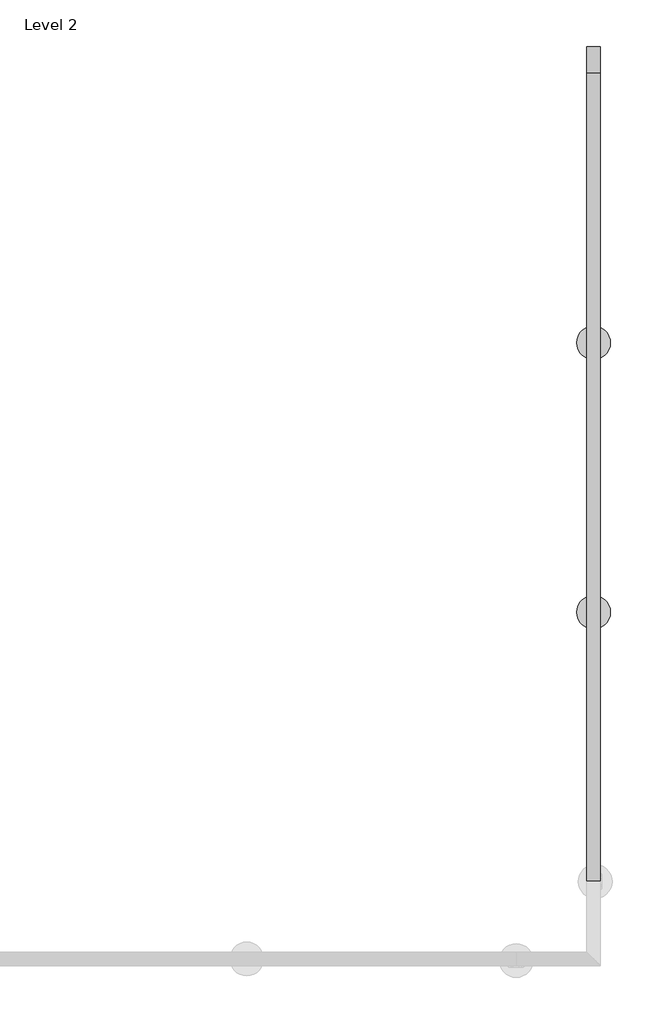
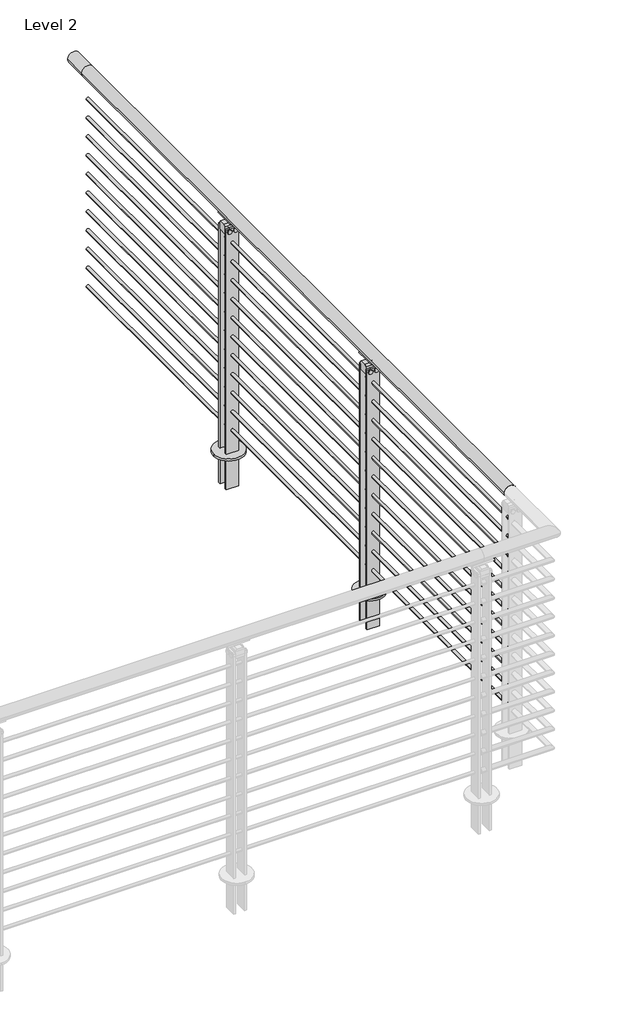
# One storey, part 19 of 31: 1 railing.
"""IFC4 building model written with IfcOpenShell, lengths in millimetres."""

from ifc_helpers import new_model, si_unit, point, frame, frame_2d, origin, place, context, project, spatial, polyline, circle_curve, trimmed, segment, composite_curve, outline, extrude, element, save
from ifc_brep_helpers import plane_surface, cylinder_surface, revolved_surface, advanced_brep

model = new_model("IFC4")

# Units and contexts
model_context = context("Model", 3, world=origin())
ifc_project = project(units=[si_unit("LENGTHUNIT", "METRE", prefix="MILLI")], contexts=[model_context])

# Site, building, storey
site = spatial("IfcSite", under=ifc_project)
building = spatial("IfcBuilding", under=site)
storey = spatial("IfcBuildingStorey", under=building, Name="Level 2", Elevation=3048.0)

# Railing
placement = place(None, origin())
element("IfcRailing", 1, ObjectType="VIVA-BLADE-Multiline-Core Mount-Straight", at=placement, inside=storey, context=model_context, shape_type="SolidModel", body=[
    advanced_brep(
    [(71109.5617686, -69643.4426165, 4102.1), (71058.7617686, -69643.4426165, 4102.1), (71109.5617686, -66595.4426165, 4102.1), (71058.7617686, -66595.4426165, 4102.1), (71109.5617686, -66493.8426165, 4102.1), (71058.7617686, -66493.8426165, 4102.1)],
    [
        (0, 1, circle_curve(frame((71084.1617686, -69643.4426165, 4102.1), z_axis=(0.0, -1.0, 0.0), x_axis=(-1.0, 0.0, 0.0)), 25.4)),
        (1, 0, circle_curve(frame((71084.1617686, -69643.4426165, 4102.1), z_axis=(0.0, -1.0, 0.0), x_axis=(-1.0, 0.0, 0.0)), 25.4)),
        (0, 2),
        (2, 3, circle_curve(frame((71084.1617686, -66595.4426165, 4102.1), z_axis=(0.0, -1.0, 0.0), x_axis=(-1.0, 0.0, 0.0)), 25.4)),
        (3, 1),
        (3, 2, circle_curve(frame((71084.1617686, -66595.4426165, 4102.1), z_axis=(0.0, -1.0, 0.0), x_axis=(-1.0, 0.0, 0.0)), 25.4)),
        (4, 5, circle_curve(frame((71084.1617686, -66493.8426165, 4102.1), z_axis=(0.0, 1.0, 0.0), x_axis=(-1.0, 0.0, 0.0)), 25.4)),
        (5, 4, circle_curve(frame((71084.1617686, -66493.8426165, 4102.1), z_axis=(0.0, 1.0, 0.0), x_axis=(-1.0, 0.0, 0.0)), 25.4)),
        (2, 4),
        (5, 3),
    ],
    [
        plane_surface(frame((71084.1617686, -69643.4426165, 4127.5), z_axis=(0.0, -1.0, 0.0), x_axis=(0.0, 0.0, 1.0))),
        cylinder_surface(frame((71084.1617686, -69643.4426165, 4102.1), z_axis=(0.0, -1.0, 0.0), x_axis=(-1.0, 0.0, 0.0)), 25.4),
        plane_surface(frame((71084.1617686, -66493.8426165, 4127.5), z_axis=(0.0, 1.0, 0.0), x_axis=(0.0, 0.0, 1.0))),
        cylinder_surface(frame((71084.1617686, -66595.4426165, 4102.1), z_axis=(0.0, -1.0, 0.0), x_axis=(-1.0, 0.0, 0.0)), 25.4),
    ],
    [
        (0, [[1, 2]]),
        (1, [[-1, 3, 4, 5]]),
        (1, [[-2, -5, 6, -3]]),
        (2, [[7, 8]]),
        (3, [[-4, 9, -8, 10]]),
        (3, [[-6, -10, -7, -9]]),
    ],
),
    extrude(outline(composite_curve([segment(trimmed(circle_curve(frame_2d((3981.45, 71084.1617686)), 6.35), [point((3981.45, 71077.8117686))], [point((3981.45, 71090.5117686))], False, "CARTESIAN"), True, "CONTINUOUS"), segment(trimmed(circle_curve(frame_2d((3981.45, 71084.1617686)), 6.35), [point((3981.45, 71090.5117686))], [point((3981.45, 71077.8117686))], False, "CARTESIAN"), True, "CONTINUOUS")], self_intersect=False)), frame((0.0, -69643.4426165, 0.0), z_axis=(0.0, 1.0, 0.0), x_axis=(0.0, 0.0, 1.0)), (0.0, 0.0, 1.0), 3048.0),
    extrude(outline(composite_curve([segment(trimmed(circle_curve(frame_2d((3898.9, 71084.1617686)), 6.35), [point((3898.9, 71077.8117686))], [point((3898.9, 71090.5117686))], False, "CARTESIAN"), True, "CONTINUOUS"), segment(trimmed(circle_curve(frame_2d((3898.9, 71084.1617686)), 6.35), [point((3898.9, 71090.5117686))], [point((3898.9, 71077.8117686))], False, "CARTESIAN"), True, "CONTINUOUS")], self_intersect=False)), frame((0.0, -69643.4426165, 0.0), z_axis=(0.0, 1.0, 0.0), x_axis=(0.0, 0.0, 1.0)), (0.0, 0.0, 1.0), 3048.0),
    extrude(outline(composite_curve([segment(trimmed(circle_curve(frame_2d((3816.35, 71084.1617686)), 6.35), [point((3816.35, 71077.8117686))], [point((3816.35, 71090.5117686))], False, "CARTESIAN"), True, "CONTINUOUS"), segment(trimmed(circle_curve(frame_2d((3816.35, 71084.1617686)), 6.35), [point((3816.35, 71090.5117686))], [point((3816.35, 71077.8117686))], False, "CARTESIAN"), True, "CONTINUOUS")], self_intersect=False)), frame((0.0, -69643.4426165, 0.0), z_axis=(0.0, 1.0, 0.0), x_axis=(0.0, 0.0, 1.0)), (0.0, 0.0, 1.0), 3048.0),
    extrude(outline(composite_curve([segment(trimmed(circle_curve(frame_2d((3733.8, 71084.1617686)), 6.35), [point((3733.8, 71077.8117686))], [point((3733.8, 71090.5117686))], False, "CARTESIAN"), True, "CONTINUOUS"), segment(trimmed(circle_curve(frame_2d((3733.8, 71084.1617686)), 6.35), [point((3733.8, 71090.5117686))], [point((3733.8, 71077.8117686))], False, "CARTESIAN"), True, "CONTINUOUS")], self_intersect=False)), frame((0.0, -69643.4426165, 0.0), z_axis=(0.0, 1.0, 0.0), x_axis=(0.0, 0.0, 1.0)), (0.0, 0.0, 1.0), 3048.0),
    extrude(outline(composite_curve([segment(trimmed(circle_curve(frame_2d((3651.25, 71084.1617686)), 6.35), [point((3651.25, 71077.8117686))], [point((3651.25, 71090.5117686))], False, "CARTESIAN"), True, "CONTINUOUS"), segment(trimmed(circle_curve(frame_2d((3651.25, 71084.1617686)), 6.35), [point((3651.25, 71090.5117686))], [point((3651.25, 71077.8117686))], False, "CARTESIAN"), True, "CONTINUOUS")], self_intersect=False)), frame((0.0, -69643.4426165, 0.0), z_axis=(0.0, 1.0, 0.0), x_axis=(0.0, 0.0, 1.0)), (0.0, 0.0, 1.0), 3048.0),
    extrude(outline(composite_curve([segment(trimmed(circle_curve(frame_2d((3568.7, 71084.1617686)), 6.35), [point((3568.7, 71077.8117686))], [point((3568.7, 71090.5117686))], False, "CARTESIAN"), True, "CONTINUOUS"), segment(trimmed(circle_curve(frame_2d((3568.7, 71084.1617686)), 6.35), [point((3568.7, 71090.5117686))], [point((3568.7, 71077.8117686))], False, "CARTESIAN"), True, "CONTINUOUS")], self_intersect=False)), frame((0.0, -69643.4426165, 0.0), z_axis=(0.0, 1.0, 0.0), x_axis=(0.0, 0.0, 1.0)), (0.0, 0.0, 1.0), 3048.0),
    extrude(outline(composite_curve([segment(trimmed(circle_curve(frame_2d((3486.15, 71084.1617686)), 6.35), [point((3486.15, 71077.8117686))], [point((3486.15, 71090.5117686))], False, "CARTESIAN"), True, "CONTINUOUS"), segment(trimmed(circle_curve(frame_2d((3486.15, 71084.1617686)), 6.35), [point((3486.15, 71090.5117686))], [point((3486.15, 71077.8117686))], False, "CARTESIAN"), True, "CONTINUOUS")], self_intersect=False)), frame((0.0, -69643.4426165, 0.0), z_axis=(0.0, 1.0, 0.0), x_axis=(0.0, 0.0, 1.0)), (0.0, 0.0, 1.0), 3048.0),
    extrude(outline(composite_curve([segment(trimmed(circle_curve(frame_2d((3403.6, 71084.1617686)), 6.35), [point((3403.6, 71077.8117686))], [point((3403.6, 71090.5117686))], False, "CARTESIAN"), True, "CONTINUOUS"), segment(trimmed(circle_curve(frame_2d((3403.6, 71084.1617686)), 6.35), [point((3403.6, 71090.5117686))], [point((3403.6, 71077.8117686))], False, "CARTESIAN"), True, "CONTINUOUS")], self_intersect=False)), frame((0.0, -69643.4426165, 0.0), z_axis=(0.0, 1.0, 0.0), x_axis=(0.0, 0.0, 1.0)), (0.0, 0.0, 1.0), 3048.0),
    extrude(outline(composite_curve([segment(trimmed(circle_curve(frame_2d((3321.05, 71084.1617686)), 6.35), [point((3321.05, 71077.8117686))], [point((3321.05, 71090.5117686))], False, "CARTESIAN"), True, "CONTINUOUS"), segment(trimmed(circle_curve(frame_2d((3321.05, 71084.1617686)), 6.35), [point((3321.05, 71090.5117686))], [point((3321.05, 71077.8117686))], False, "CARTESIAN"), True, "CONTINUOUS")], self_intersect=False)), frame((0.0, -69643.4426165, 0.0), z_axis=(0.0, 1.0, 0.0), x_axis=(0.0, 0.0, 1.0)), (0.0, 0.0, 1.0), 3048.0),
    extrude(outline(composite_curve([segment(trimmed(circle_curve(frame_2d((3238.5, 71084.1617686)), 6.35), [point((3238.5, 71077.8117686))], [point((3238.5, 71090.5117686))], False, "CARTESIAN"), True, "CONTINUOUS"), segment(trimmed(circle_curve(frame_2d((3238.5, 71084.1617686)), 6.35), [point((3238.5, 71090.5117686))], [point((3238.5, 71077.8117686))], False, "CARTESIAN"), True, "CONTINUOUS")], self_intersect=False)), frame((0.0, -69643.4426165, 0.0), z_axis=(0.0, 1.0, 0.0), x_axis=(0.0, 0.0, 1.0)), (0.0, 0.0, 1.0), 3048.0),
    extrude(outline(composite_curve([segment(trimmed(circle_curve(frame_2d((3155.95, 71084.1617686)), 6.35), [point((3155.95, 71077.8117686))], [point((3155.95, 71090.5117686))], False, "CARTESIAN"), True, "CONTINUOUS"), segment(trimmed(circle_curve(frame_2d((3155.95, 71084.1617686)), 6.35), [point((3155.95, 71090.5117686))], [point((3155.95, 71077.8117686))], False, "CARTESIAN"), True, "CONTINUOUS")], self_intersect=False)), frame((0.0, -69643.4426165, 0.0), z_axis=(0.0, 1.0, 0.0), x_axis=(0.0, 0.0, 1.0)), (0.0, 0.0, 1.0), 3048.0),
    extrude(outline(polyline([(71058.7619719, -67638.5174522), (71058.7619719, -67630.4926165), (71109.5642965, -67630.4926165), (71109.5642965, -67638.5174522), (71058.7619719, -67638.5174522)])), frame((0.0, 0.0, 2901.95), z_axis=(0.0, 0.0, 1.0), x_axis=(1.0, 0.0, 0.0)), (0.0, 0.0, 1.0), 146.05),
    extrude(outline(polyline([(71058.7619719, -67592.3926546), (71058.7619719, -67584.3916546), (71109.5642965, -67584.3916546), (71109.5642965, -67592.3926546), (71058.7619719, -67592.3926546)])), frame((0.0, 0.0, 2901.95), z_axis=(0.0, 0.0, 1.0), x_axis=(1.0, 0.0, 0.0)), (0.0, 0.0, 1.0), 146.05),
    extrude(outline(composite_curve([segment(trimmed(circle_curve(frame_2d((71084.1617686, -67611.4545534)), 63.4988059), [point((71147.6605745, -67611.4545534))], [point((71020.6629626, -67611.4545534))], False, "CARTESIAN"), True, "CONTINUOUS"), segment(trimmed(circle_curve(frame_2d((71084.1617686, -67611.4545534)), 63.4988059), [point((71020.6629626, -67611.4545534))], [point((71147.6605745, -67611.4545534))], False, "CARTESIAN"), True, "CONTINUOUS")], self_intersect=False)), frame((0.0, 0.0, 3048.0), z_axis=(0.0, 0.0, 1.0), x_axis=(1.0, 0.0, 0.0)), (0.0, 0.0, 1.0), 9.525),
    advanced_brep(
    [(71071.4016449, -67566.2052165, 4080.0967655), (71096.2737095, -67566.2052165, 4079.9535285), (71099.0826398, -67566.2052165, 4075.1267745), (71067.5657475, -67566.2052165, 4075.707533), (71071.4016449, -67656.6800165, 4080.0967655), (71067.5657475, -67656.6800165, 4075.707533), (71099.1964332, -67656.6800165, 4075.1893964), (71096.3606816, -67656.6800165, 4080.0018447)],
    [
        (0, 1, circle_curve(frame((71083.9654478, -67566.2052165, 4102.2115898), z_axis=(0.0, -1.0, 0.0), x_axis=(-1.0, 0.0, 0.0)), 25.4345159)),
        (1, 2, circle_curve(frame((71097.6053347, -67566.2052165, 4077.4993599), z_axis=(0.0, 1.0, 0.0), x_axis=(-1.0, 0.0, 0.0)), 2.7949225)),
        (2, 3, circle_curve(frame((71083.8319847, -67566.2052165, 4102.9742164), z_axis=(0.0, 1.0, 0.0), x_axis=(-1.0, 0.0, 0.0)), 31.75)),
        (3, 0, circle_curve(frame((71069.8540873, -67566.2052165, 4077.5784521), z_axis=(0.0, 1.0, 0.0), x_axis=(-1.0, 0.0, 0.0)), 2.9558141)),
        (4, 5, circle_curve(frame((71069.8540873, -67656.6800165, 4077.5784521), z_axis=(0.0, -1.0, 0.0), x_axis=(-1.0, 0.0, 0.0)), 2.9558141)),
        (5, 6, circle_curve(frame((71083.8319847, -67656.6800165, 4102.9742164), z_axis=(0.0, -1.0, 0.0), x_axis=(-1.0, 0.0, 0.0)), 31.75)),
        (6, 7, circle_curve(frame((71097.6053347, -67656.6800165, 4077.4993599), z_axis=(0.0, -1.0, 0.0), x_axis=(-1.0, 0.0, 0.0)), 2.7949225)),
        (7, 4, circle_curve(frame((71083.9654478, -67656.6800165, 4102.2115898), z_axis=(0.0, 1.0, 0.0), x_axis=(-1.0, 0.0, 0.0)), 25.4345159)),
        (0, 4),
        (7, 1),
        (6, 2),
        (5, 3),
    ],
    [
        plane_surface(frame((71058.530932, -67566.2052165, 4102.2115898), z_axis=(0.0, 1.0, 0.0), x_axis=(0.0, 0.0, -1.0))),
        plane_surface(frame((71058.530932, -67656.6800165, 4102.2115898), z_axis=(0.0, -1.0, 0.0), x_axis=(0.0, 0.0, 1.0))),
        revolved_surface(polyline([(71058.53093190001, -67656.6800165, 4102.2115898), (71058.53093190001, -67566.2052165, 4102.2115898)]), (71083.9654478, -67656.6800165, 4102.2115898), (0.0, -1.0, 0.0)),
        cylinder_surface(frame((71097.6053347, -67656.6800165, 4077.4993599), z_axis=(0.0, 1.0, 0.0), x_axis=(-1.0, 0.0, 0.0)), 2.7949225),
        cylinder_surface(frame((71083.8319847, -67656.6800165, 4102.9742164), z_axis=(0.0, 1.0, 0.0), x_axis=(-1.0, 0.0, 0.0)), 31.75),
        cylinder_surface(frame((71069.8540873, -67656.6800165, 4077.5784521), z_axis=(0.0, 1.0, 0.0), x_axis=(-1.0, 0.0, 0.0)), 2.9558141),
    ],
    [
        (0, [[1, 2, 3, 4]]),
        (1, [[5, 6, 7, 8]]),
        (2, [[-1, 9, -8, 10]]),
        (3, [[-2, -10, -7, 11]]),
        (4, [[-3, -11, -6, 12]]),
        (5, [[-4, -12, -5, -9]]),
    ],
),
    extrude(outline(composite_curve([segment(polyline([(-67598.7426165, 4062.4125), (-67624.1426165, 4062.4125)]), True, "CONTINUOUS"), segment(trimmed(circle_curve(frame_2d((-67638.5105314, 4062.4125)), 14.3679149), [point((-67624.1426165, 4062.4125))], [point((-67638.5105314, 4076.7804149))], True, "CARTESIAN"), True, "CONTINUOUS"), segment(polyline([(-67638.5105314, 4076.7804149), (-67584.3747017, 4076.7804149)]), True, "CONTINUOUS"), segment(trimmed(circle_curve(frame_2d((-67584.3747017, 4062.4125)), 14.3679149), [point((-67584.3747017, 4076.7804149))], [point((-67598.7426165, 4062.4125))], True, "CARTESIAN"), True, "CONTINUOUS")], self_intersect=False)), frame((71081.6217686, 0.0, 0.0), z_axis=(1.0, 0.0, 0.0), x_axis=(0.0, 1.0, 0.0)), (0.0, 0.0, 1.0), 5.08),
    extrude(outline(polyline([(71058.7619719, -67638.5174522), (71058.7619719, -67630.4926165), (71109.5642965, -67630.4926165), (71109.5642965, -67638.5174522), (71058.7619719, -67638.5174522)])), frame((0.0, 0.0, 3048.0), z_axis=(0.0, 0.0, 1.0), x_axis=(1.0, 0.0, 0.0)), (0.0, 0.0, 1.0), 996.95),
    extrude(outline(composite_curve([segment(trimmed(circle_curve(frame_2d((4034.0416929, 71096.8642455)), 8.89), [point((4034.0416929, 71105.7542455))], [point((4034.0416929, 71087.9742455))], False, "CARTESIAN"), True, "CONTINUOUS"), segment(trimmed(circle_curve(frame_2d((4034.0416929, 71096.8642455)), 8.89), [point((4034.0416929, 71087.9742455))], [point((4034.0416929, 71105.7542455))], False, "CARTESIAN"), True, "CONTINUOUS")], self_intersect=False)), frame((0.0, -67643.1926165, 0.0), z_axis=(0.0, 1.0, 0.0), x_axis=(0.0, 0.0, 1.0)), (0.0, 0.0, 1.0), 63.4880631),
    extrude(outline(composite_curve([segment(trimmed(circle_curve(frame_2d((4034.0416929, 71071.4643475)), 8.89), [point((4034.0416929, 71080.3543475))], [point((4034.0416929, 71062.5743475))], False, "CARTESIAN"), True, "CONTINUOUS"), segment(trimmed(circle_curve(frame_2d((4034.0416929, 71071.4643475)), 8.89), [point((4034.0416929, 71062.5743475))], [point((4034.0416929, 71080.3543475))], False, "CARTESIAN"), True, "CONTINUOUS")], self_intersect=False)), frame((0.0, -67643.1926165, 0.0), z_axis=(0.0, 1.0, 0.0), x_axis=(0.0, 0.0, 1.0)), (0.0, 0.0, 1.0), 63.4880631),
    extrude(outline(polyline([(-67630.4926165, 4022.7123), (-67630.4926165, 4056.0625), (-67624.1426165, 4062.4125), (-67598.7426165, 4062.4125), (-67592.3926165, 4056.0625), (-67592.3926165, 4022.7123), (-67630.4926165, 4022.7123)])), frame((71058.7617686, 0.0, 0.0), z_axis=(1.0, 0.0, 0.0), x_axis=(0.0, 1.0, 0.0)), (0.0, 0.0, 1.0), 50.8025279),
    extrude(outline(polyline([(71058.7619719, -67592.3926546), (71058.7619719, -67584.3916546), (71109.5642965, -67584.3916546), (71109.5642965, -67592.3926546), (71058.7619719, -67592.3926546)])), frame((0.0, 0.0, 3048.0), z_axis=(0.0, 0.0, 1.0), x_axis=(1.0, 0.0, 0.0)), (0.0, 0.0, 1.0), 996.95),
    extrude(outline(polyline([(71058.7619719, -68654.5174522), (71058.7619719, -68646.4926165), (71109.5642965, -68646.4926165), (71109.5642965, -68654.5174522), (71058.7619719, -68654.5174522)])), frame((0.0, 0.0, 2901.95), z_axis=(0.0, 0.0, 1.0), x_axis=(1.0, 0.0, 0.0)), (0.0, 0.0, 1.0), 146.05),
    extrude(outline(polyline([(71058.7619719, -68608.3926546), (71058.7619719, -68600.3916546), (71109.5642965, -68600.3916546), (71109.5642965, -68608.3926546), (71058.7619719, -68608.3926546)])), frame((0.0, 0.0, 2901.95), z_axis=(0.0, 0.0, 1.0), x_axis=(1.0, 0.0, 0.0)), (0.0, 0.0, 1.0), 146.05),
    extrude(outline(composite_curve([segment(trimmed(circle_curve(frame_2d((71084.1617686, -68627.4545534)), 63.4988059), [point((71147.6605745, -68627.4545534))], [point((71020.6629626, -68627.4545534))], False, "CARTESIAN"), True, "CONTINUOUS"), segment(trimmed(circle_curve(frame_2d((71084.1617686, -68627.4545534)), 63.4988059), [point((71020.6629626, -68627.4545534))], [point((71147.6605745, -68627.4545534))], False, "CARTESIAN"), True, "CONTINUOUS")], self_intersect=False)), frame((0.0, 0.0, 3048.0), z_axis=(0.0, 0.0, 1.0), x_axis=(1.0, 0.0, 0.0)), (0.0, 0.0, 1.0), 9.525),
    advanced_brep(
    [(71071.4016449, -68582.2052165, 4080.0967655), (71096.2737095, -68582.2052165, 4079.9535285), (71099.0826398, -68582.2052165, 4075.1267745), (71067.5657475, -68582.2052165, 4075.707533), (71071.4016449, -68672.6800165, 4080.0967655), (71067.5657475, -68672.6800165, 4075.707533), (71099.1964332, -68672.6800165, 4075.1893964), (71096.3606816, -68672.6800165, 4080.0018447)],
    [
        (0, 1, circle_curve(frame((71083.9654478, -68582.2052165, 4102.2115898), z_axis=(0.0, -1.0, 0.0), x_axis=(-1.0, 0.0, 0.0)), 25.4345159)),
        (1, 2, circle_curve(frame((71097.6053347, -68582.2052165, 4077.4993599), z_axis=(0.0, 1.0, 0.0), x_axis=(-1.0, 0.0, 0.0)), 2.7949225)),
        (2, 3, circle_curve(frame((71083.8319847, -68582.2052165, 4102.9742164), z_axis=(0.0, 1.0, 0.0), x_axis=(-1.0, 0.0, 0.0)), 31.75)),
        (3, 0, circle_curve(frame((71069.8540873, -68582.2052165, 4077.5784521), z_axis=(0.0, 1.0, 0.0), x_axis=(-1.0, 0.0, 0.0)), 2.9558141)),
        (4, 5, circle_curve(frame((71069.8540873, -68672.6800165, 4077.5784521), z_axis=(0.0, -1.0, 0.0), x_axis=(-1.0, 0.0, 0.0)), 2.9558141)),
        (5, 6, circle_curve(frame((71083.8319847, -68672.6800165, 4102.9742164), z_axis=(0.0, -1.0, 0.0), x_axis=(-1.0, 0.0, 0.0)), 31.75)),
        (6, 7, circle_curve(frame((71097.6053347, -68672.6800165, 4077.4993599), z_axis=(0.0, -1.0, 0.0), x_axis=(-1.0, 0.0, 0.0)), 2.7949225)),
        (7, 4, circle_curve(frame((71083.9654478, -68672.6800165, 4102.2115898), z_axis=(0.0, 1.0, 0.0), x_axis=(-1.0, 0.0, 0.0)), 25.4345159)),
        (0, 4),
        (7, 1),
        (6, 2),
        (5, 3),
    ],
    [
        plane_surface(frame((71058.530932, -68582.2052165, 4102.2115898), z_axis=(0.0, 1.0, 0.0), x_axis=(0.0, 0.0, -1.0))),
        plane_surface(frame((71058.530932, -68672.6800165, 4102.2115898), z_axis=(0.0, -1.0, 0.0), x_axis=(0.0, 0.0, 1.0))),
        revolved_surface(polyline([(71058.53093190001, -68672.6800165, 4102.2115898), (71058.53093190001, -68582.2052165, 4102.2115898)]), (71083.9654478, -68672.6800165, 4102.2115898), (0.0, -1.0, 0.0)),
        cylinder_surface(frame((71097.6053347, -68672.6800165, 4077.4993599), z_axis=(0.0, 1.0, 0.0), x_axis=(-1.0, 0.0, 0.0)), 2.7949225),
        cylinder_surface(frame((71083.8319847, -68672.6800165, 4102.9742164), z_axis=(0.0, 1.0, 0.0), x_axis=(-1.0, 0.0, 0.0)), 31.75),
        cylinder_surface(frame((71069.8540873, -68672.6800165, 4077.5784521), z_axis=(0.0, 1.0, 0.0), x_axis=(-1.0, 0.0, 0.0)), 2.9558141),
    ],
    [
        (0, [[1, 2, 3, 4]]),
        (1, [[5, 6, 7, 8]]),
        (2, [[-1, 9, -8, 10]]),
        (3, [[-2, -10, -7, 11]]),
        (4, [[-3, -11, -6, 12]]),
        (5, [[-4, -12, -5, -9]]),
    ],
),
    extrude(outline(composite_curve([segment(polyline([(-68614.7426165, 4062.4125), (-68640.1426165, 4062.4125)]), True, "CONTINUOUS"), segment(trimmed(circle_curve(frame_2d((-68654.5105314, 4062.4125)), 14.3679149), [point((-68640.1426165, 4062.4125))], [point((-68654.5105314, 4076.7804149))], True, "CARTESIAN"), True, "CONTINUOUS"), segment(polyline([(-68654.5105314, 4076.7804149), (-68600.3747017, 4076.7804149)]), True, "CONTINUOUS"), segment(trimmed(circle_curve(frame_2d((-68600.3747017, 4062.4125)), 14.3679149), [point((-68600.3747017, 4076.7804149))], [point((-68614.7426165, 4062.4125))], True, "CARTESIAN"), True, "CONTINUOUS")], self_intersect=False)), frame((71081.6217686, 0.0, 0.0), z_axis=(1.0, 0.0, 0.0), x_axis=(0.0, 1.0, 0.0)), (0.0, 0.0, 1.0), 5.08),
    extrude(outline(polyline([(71058.7619719, -68654.5174522), (71058.7619719, -68646.4926165), (71109.5642965, -68646.4926165), (71109.5642965, -68654.5174522), (71058.7619719, -68654.5174522)])), frame((0.0, 0.0, 3048.0), z_axis=(0.0, 0.0, 1.0), x_axis=(1.0, 0.0, 0.0)), (0.0, 0.0, 1.0), 996.95),
    extrude(outline(composite_curve([segment(trimmed(circle_curve(frame_2d((4034.0416929, 71096.8642455)), 8.89), [point((4034.0416929, 71105.7542455))], [point((4034.0416929, 71087.9742455))], False, "CARTESIAN"), True, "CONTINUOUS"), segment(trimmed(circle_curve(frame_2d((4034.0416929, 71096.8642455)), 8.89), [point((4034.0416929, 71087.9742455))], [point((4034.0416929, 71105.7542455))], False, "CARTESIAN"), True, "CONTINUOUS")], self_intersect=False)), frame((0.0, -68659.1926165, 0.0), z_axis=(0.0, 1.0, 0.0), x_axis=(0.0, 0.0, 1.0)), (0.0, 0.0, 1.0), 63.4880631),
    extrude(outline(composite_curve([segment(trimmed(circle_curve(frame_2d((4034.0416929, 71071.4643475)), 8.89), [point((4034.0416929, 71080.3543475))], [point((4034.0416929, 71062.5743475))], False, "CARTESIAN"), True, "CONTINUOUS"), segment(trimmed(circle_curve(frame_2d((4034.0416929, 71071.4643475)), 8.89), [point((4034.0416929, 71062.5743475))], [point((4034.0416929, 71080.3543475))], False, "CARTESIAN"), True, "CONTINUOUS")], self_intersect=False)), frame((0.0, -68659.1926165, 0.0), z_axis=(0.0, 1.0, 0.0), x_axis=(0.0, 0.0, 1.0)), (0.0, 0.0, 1.0), 63.4880631),
    extrude(outline(polyline([(-68646.4926165, 4022.7123), (-68646.4926165, 4056.0625), (-68640.1426165, 4062.4125), (-68614.7426165, 4062.4125), (-68608.3926165, 4056.0625), (-68608.3926165, 4022.7123), (-68646.4926165, 4022.7123)])), frame((71058.7617686, 0.0, 0.0), z_axis=(1.0, 0.0, 0.0), x_axis=(0.0, 1.0, 0.0)), (0.0, 0.0, 1.0), 50.8025279),
    extrude(outline(polyline([(71058.7619719, -68608.3926546), (71058.7619719, -68600.3916546), (71109.5642965, -68600.3916546), (71109.5642965, -68608.3926546), (71058.7619719, -68608.3926546)])), frame((0.0, 0.0, 3048.0), z_axis=(0.0, 0.0, 1.0), x_axis=(1.0, 0.0, 0.0)), (0.0, 0.0, 1.0), 996.95),
])

save(model, "model.ifc")
